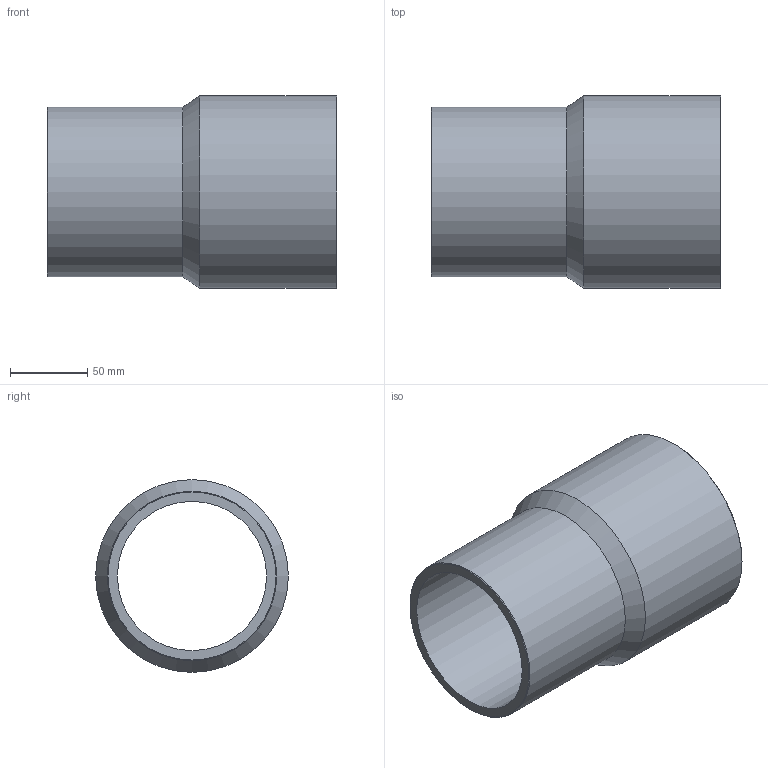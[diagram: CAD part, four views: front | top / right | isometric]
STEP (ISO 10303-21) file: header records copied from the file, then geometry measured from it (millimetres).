
FILE_DESCRIPTION(/* description */ ('Unknown'),/* implementation_level */ '2;1');
FILE_NAME(/* name */ 'RP125110B',/* time_stamp */ '2021-09-17T11:20:55+02:00',/* author */ ('Unknown'),/* organization */ ('Unknown'),/* preprocessor_version */ 'ST-DEVELOPER v16.7',/* originating_system */ 'Solid Edge',/* authorisation */ 'Unknown');
FILE_SCHEMA (('AUTOMOTIVE_DESIGN {1 0 10303 214 3 1 1}'));
Length unit declared in the file: millimetre
Products named in the file (1): RP125110B
Bounding box: 188 x 125 x 125 mm (x, y, z)
Volume: 472796 mm3; surface area: 136475.2 mm2
Topology: 1 solids, 1 shells, 10 faces, 19 edges, 11 vertices
Faces by surface type: cylinder 4, cone 4, plane 2
Full cylindrical faces by diameter (mm): 96.8 x1, 110 x1, 110.2 x1, 125 x1
Entity records: 238 total; most frequent: DIRECTION 42, CARTESIAN_POINT 31, AXIS2_PLACEMENT_3D 21, ORIENTED_EDGE 20, EDGE_LOOP 20, FACE_BOUND 20, EDGE_CURVE 10, VERTEX_POINT 10
